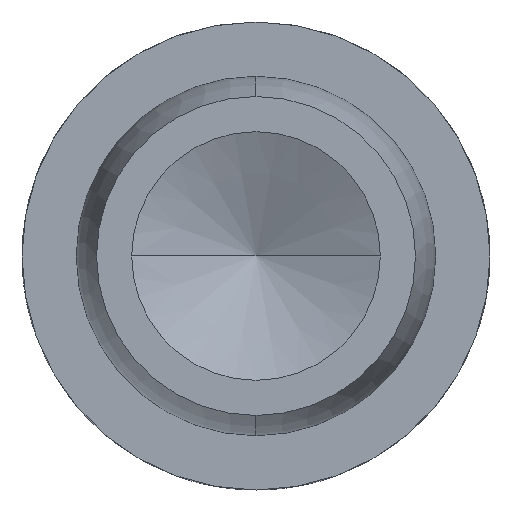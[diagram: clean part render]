
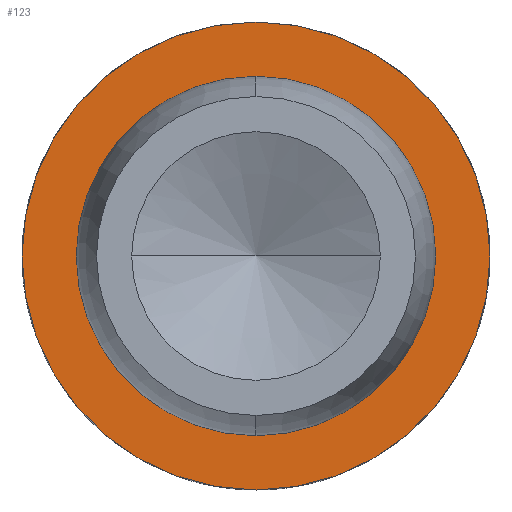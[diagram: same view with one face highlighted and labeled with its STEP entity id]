
A CAD part, left-side view. The second image highlights one B-rep face of the part: STEP entity #123.
In plain terms, the highlighted planar face has unit normal (-1, 0, 0).
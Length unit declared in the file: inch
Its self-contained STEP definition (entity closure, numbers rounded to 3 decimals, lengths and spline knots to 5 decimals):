
#59 = CIRCLE ( 'NONE', #142, 0.24 ) ;
#123 = ADVANCED_FACE ( 'NONE', ( #2691, #858 ), #2048, .T. ) ;
#142 = AXIS2_PLACEMENT_3D ( 'NONE', #2625, #1256, #1671 ) ;
#295 = DIRECTION ( 'NONE',  ( -1., 0., 0. ) ) ;
#415 = CIRCLE ( 'NONE', #1879, 0.3125 ) ;
#719 = ORIENTED_EDGE ( 'NONE', *, *, #2142, .T. ) ;
#792 = VERTEX_POINT ( 'NONE', #1587 ) ;
#856 = CARTESIAN_POINT ( 'NONE',  ( -1.125, 0., 0. ) ) ;
#858 = FACE_BOUND ( 'NONE', #877, .T. ) ;
#863 = AXIS2_PLACEMENT_3D ( 'NONE', #1544, #295, #1782 ) ;
#877 = EDGE_LOOP ( 'NONE', ( #1889, #982 ) ) ;
#888 = CARTESIAN_POINT ( 'NONE',  ( -1.125, 0., 0.24 ) ) ;
#895 = CARTESIAN_POINT ( 'NONE',  ( -1.125, 0., 0.3125 ) ) ;
#948 = ORIENTED_EDGE ( 'NONE', *, *, #2317, .T. ) ;
#982 = ORIENTED_EDGE ( 'NONE', *, *, #2322, .F. ) ;
#1065 = DIRECTION ( 'NONE',  ( 0., 0., 1. ) ) ;
#1120 = DIRECTION ( 'NONE',  ( -1., 0., 0. ) ) ;
#1256 = DIRECTION ( 'NONE',  ( -1., 0., 0. ) ) ;
#1320 = VERTEX_POINT ( 'NONE', #2139 ) ;
#1394 = AXIS2_PLACEMENT_3D ( 'NONE', #2405, #2081, #2433 ) ;
#1544 = CARTESIAN_POINT ( 'NONE',  ( -1.125, 0., 0. ) ) ;
#1581 = EDGE_CURVE ( 'NONE', #1766, #792, #59, .T. ) ;
#1587 = CARTESIAN_POINT ( 'NONE',  ( -1.125, 0., -0.24 ) ) ;
#1671 = DIRECTION ( 'NONE',  ( 0., 0., 1. ) ) ;
#1766 = VERTEX_POINT ( 'NONE', #888 ) ;
#1782 = DIRECTION ( 'NONE',  ( 0., 0., 1. ) ) ;
#1837 = AXIS2_PLACEMENT_3D ( 'NONE', #2483, #1120, #2714 ) ;
#1879 = AXIS2_PLACEMENT_3D ( 'NONE', #856, #2412, #1065 ) ;
#1889 = ORIENTED_EDGE ( 'NONE', *, *, #1581, .F. ) ;
#2048 = PLANE ( 'NONE',  #1394 ) ;
#2081 = DIRECTION ( 'NONE',  ( -1., 0., 0. ) ) ;
#2139 = CARTESIAN_POINT ( 'NONE',  ( -1.125, 0., -0.3125 ) ) ;
#2142 = EDGE_CURVE ( 'NONE', #2267, #1320, #415, .T. ) ;
#2143 = CIRCLE ( 'NONE', #1837, 0.3125 ) ;
#2267 = VERTEX_POINT ( 'NONE', #895 ) ;
#2317 = EDGE_CURVE ( 'NONE', #1320, #2267, #2143, .T. ) ;
#2322 = EDGE_CURVE ( 'NONE', #792, #1766, #2773, .T. ) ;
#2405 = CARTESIAN_POINT ( 'NONE',  ( -1.125, 0., -0.24 ) ) ;
#2412 = DIRECTION ( 'NONE',  ( -1., 0., 0. ) ) ;
#2433 = DIRECTION ( 'NONE',  ( 0., 0., 1. ) ) ;
#2480 = EDGE_LOOP ( 'NONE', ( #719, #948 ) ) ;
#2483 = CARTESIAN_POINT ( 'NONE',  ( -1.125, 0., 0. ) ) ;
#2625 = CARTESIAN_POINT ( 'NONE',  ( -1.125, 0., 0. ) ) ;
#2691 = FACE_OUTER_BOUND ( 'NONE', #2480, .T. ) ;
#2714 = DIRECTION ( 'NONE',  ( 0., 0., 1. ) ) ;
#2773 = CIRCLE ( 'NONE', #863, 0.24 ) ;
